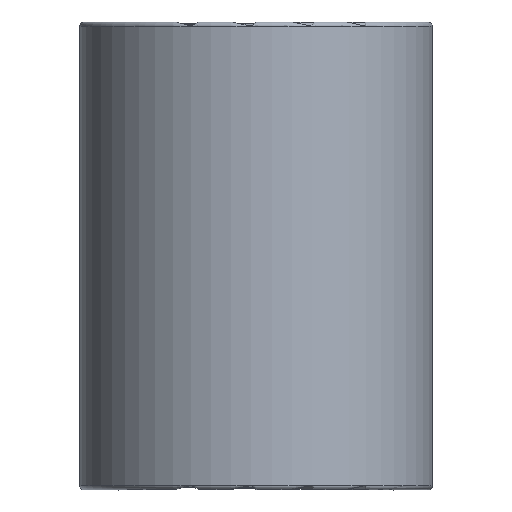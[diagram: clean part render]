
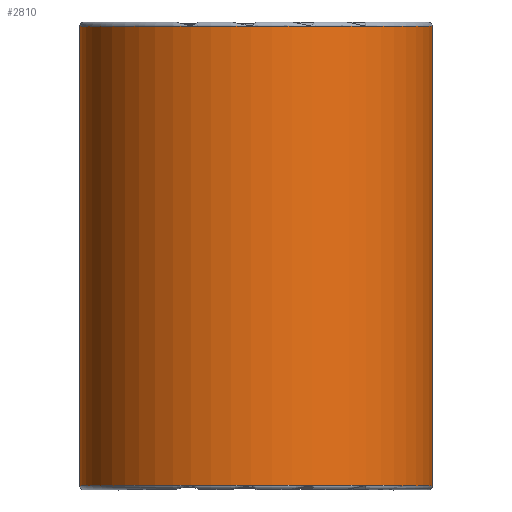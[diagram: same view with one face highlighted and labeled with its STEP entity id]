
A CAD part, top view. The second image highlights one B-rep face of the part: STEP entity #2810.
In plain terms, the highlighted cylindrical face has radius 76.8 mm (diameter 153.6 mm), a partial arc.
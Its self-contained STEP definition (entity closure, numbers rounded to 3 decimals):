
#47=B_SPLINE_CURVE_WITH_KNOTS('',3,(#4623,#4624,#4625,#4626,#4627,#4628,
#4629,#4630,#4631,#4632,#4633,#4634,#4635,#4636),.UNSPECIFIED.,.F.,.F.,
(4,1,1,1,1,1,1,1,1,1,1,4),(0.,0.091,0.182,0.273,
0.364,0.455,0.545,0.636,
0.727,0.818,0.909,1.),.UNSPECIFIED.);
#48=B_SPLINE_CURVE_WITH_KNOTS('',3,(#4642,#4643,#4644,#4645,#4646,#4647,
#4648,#4649,#4650,#4651,#4652,#4653,#4654,#4655),.UNSPECIFIED.,.F.,.F.,
(4,1,1,1,1,1,1,1,1,1,1,4),(0.,0.091,0.182,0.273,
0.364,0.455,0.545,0.636,
0.727,0.818,0.909,1.),.UNSPECIFIED.);
#330=FACE_OUTER_BOUND('',#508,.T.);
#508=EDGE_LOOP('',(#2405,#2406,#2407,#2408));
#759=LINE('',#4640,#992);
#760=LINE('',#4656,#993);
#992=VECTOR('',#3773,304.8);
#993=VECTOR('',#3774,304.8);
#1357=VERTEX_POINT('',#4620);
#1358=VERTEX_POINT('',#4622);
#1359=VERTEX_POINT('',#4639);
#1360=VERTEX_POINT('',#4641);
#1723=EDGE_CURVE('',#1358,#1357,#47,.T.);
#1725=EDGE_CURVE('',#1359,#1357,#759,.T.);
#1726=EDGE_CURVE('',#1360,#1359,#48,.T.);
#1727=EDGE_CURVE('',#1358,#1360,#760,.T.);
#2405=ORIENTED_EDGE('',*,*,#1723,.T.);
#2406=ORIENTED_EDGE('',*,*,#1725,.F.);
#2407=ORIENTED_EDGE('',*,*,#1726,.F.);
#2408=ORIENTED_EDGE('',*,*,#1727,.F.);
#2677=CYLINDRICAL_SURFACE('',#3074,76.8);
#2810=ADVANCED_FACE('',(#330),#2677,.T.);
#3074=AXIS2_PLACEMENT_3D('',#4638,#3771,#3772);
#3771=DIRECTION('center_axis',(0.,-1.,0.));
#3772=DIRECTION('ref_axis',(0.,0.,
1.));
#3773=DIRECTION('',(0.,-1.,0.));
#3774=DIRECTION('',(0.,1.,0.));
#4620=CARTESIAN_POINT('',(61.44,-100.,-1.08));
#4622=CARTESIAN_POINT('',(-61.44,-100.,-1.08));
#4623=CARTESIAN_POINT('Ctrl Pts',(-61.44,-100.,-1.08));
#4624=CARTESIAN_POINT('Ctrl Pts',(-67.74,-100.,7.135));
#4625=CARTESIAN_POINT('Ctrl Pts',(-76.57,-100.,26.189));
#4626=CARTESIAN_POINT('Ctrl Pts',(-77.888,-100.,57.699));
#4627=CARTESIAN_POINT('Ctrl Pts',(-66.666,-100.,87.2));
#4628=CARTESIAN_POINT('Ctrl Pts',(-44.807,-100.,109.947));
#4629=CARTESIAN_POINT('Ctrl Pts',(-15.776,-100.,122.31));
#4630=CARTESIAN_POINT('Ctrl Pts',(15.776,-100.,122.31));
#4631=CARTESIAN_POINT('Ctrl Pts',(44.807,-100.,109.947));
#4632=CARTESIAN_POINT('Ctrl Pts',(66.666,-100.,87.2));
#4633=CARTESIAN_POINT('Ctrl Pts',(77.888,-100.,57.699));
#4634=CARTESIAN_POINT('Ctrl Pts',(76.57,-100.,26.189));
#4635=CARTESIAN_POINT('Ctrl Pts',(67.74,-100.,7.135));
#4636=CARTESIAN_POINT('Ctrl Pts',(61.44,-100.,-1.08));
#4638=CARTESIAN_POINT('Origin',(0.,-100.,45.));
#4639=CARTESIAN_POINT('',(61.44,100.,-1.08));
#4640=CARTESIAN_POINT('',(61.44,100.,-1.08));
#4641=CARTESIAN_POINT('',(-61.44,100.,-1.08));
#4642=CARTESIAN_POINT('Ctrl Pts',(-61.44,100.,-1.08));
#4643=CARTESIAN_POINT('Ctrl Pts',(-67.74,100.,7.135));
#4644=CARTESIAN_POINT('Ctrl Pts',(-76.57,100.,26.189));
#4645=CARTESIAN_POINT('Ctrl Pts',(-77.888,100.,57.699));
#4646=CARTESIAN_POINT('Ctrl Pts',(-66.666,100.,87.2));
#4647=CARTESIAN_POINT('Ctrl Pts',(-44.807,100.,109.947));
#4648=CARTESIAN_POINT('Ctrl Pts',(-15.776,100.,122.31));
#4649=CARTESIAN_POINT('Ctrl Pts',(15.776,100.,122.31));
#4650=CARTESIAN_POINT('Ctrl Pts',(44.807,100.,109.947));
#4651=CARTESIAN_POINT('Ctrl Pts',(66.666,100.,87.2));
#4652=CARTESIAN_POINT('Ctrl Pts',(77.888,100.,57.699));
#4653=CARTESIAN_POINT('Ctrl Pts',(76.57,100.,26.189));
#4654=CARTESIAN_POINT('Ctrl Pts',(67.74,100.,7.135));
#4655=CARTESIAN_POINT('Ctrl Pts',(61.44,100.,-1.08));
#4656=CARTESIAN_POINT('',(-61.44,-100.,-1.08));
